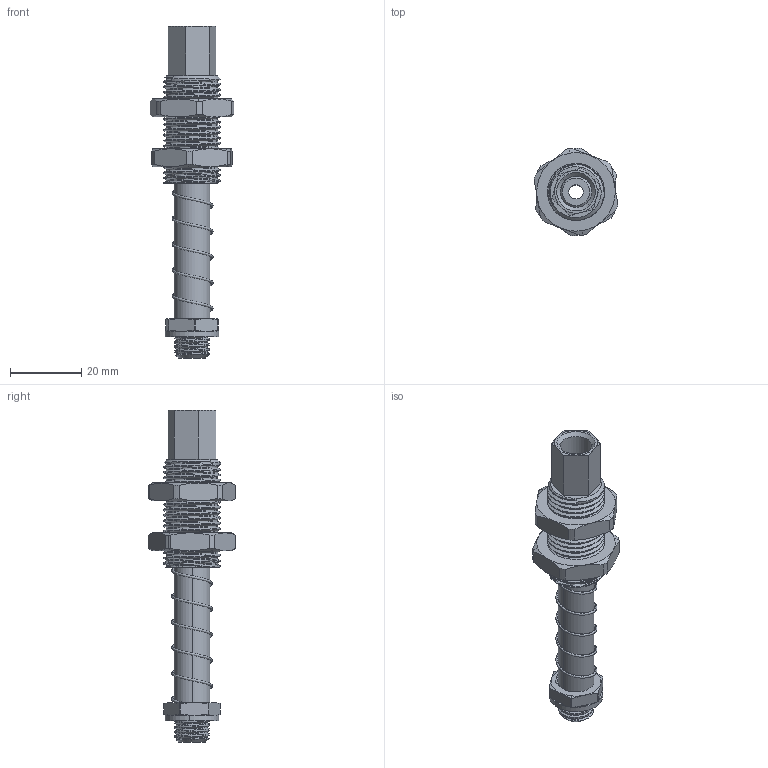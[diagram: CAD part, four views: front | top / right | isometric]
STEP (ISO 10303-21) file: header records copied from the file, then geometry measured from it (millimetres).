
FILE_DESCRIPTION (( 'STEP AP203' ), '1' );
FILE_NAME ('FSTE-G18-AG-25弹簧缓冲支杆.STEP', '2024-05-16T02:17:02', ( '微软用户' ), ( '微软中国' ), 'SwSTEP 2.0', 'SolidWorks 2018', '' );
FILE_SCHEMA (( 'CONFIG_CONTROL_DESIGN' ));
Length unit declared in the file: millimetre
Products named in the file (8): FSTE-G18-AG-25粟銅遣喳盓裝; FSTE-G18-AG-25粣裝; FSTE-G18-AG-25鞠褒情蹟譫14; FSTE-G18-AG-25踢撿芛; FSTE-G18-AG-25掛极; FSTE-G18-AG-25鞠褒情蹟譫22; FSTE-G18-AG-25菜え; FSTE-G18-AG-25粟銅
Assembly tree (8 placements, depth 2):
  FSTE-G18-AG-25粟銅遣喳盓裝
    FSTE-G18-AG-25粣裝
    FSTE-G18-AG-25鞠褒情蹟譫14
    FSTE-G18-AG-25踢撿芛
    FSTE-G18-AG-25掛极
    FSTE-G18-AG-25鞠褒情蹟譫22  x2
    FSTE-G18-AG-25菜え
    FSTE-G18-AG-25粟銅
Bounding box: 23.47 x 24.5 x 93 mm (x, y, z)
Volume: 11958.3 mm3; surface area: 11982.1 mm2
Topology: 8 solids, 8 shells, 238 faces, 589 edges, 369 vertices
Faces by surface type: cylinder 105, sphere 64, plane 46, cone 12, bspline 11
Entity records: 15948 total; most frequent: CARTESIAN_POINT 10488, ORIENTED_EDGE 1020, DIRECTION 975, EDGE_CURVE 510, AXIS2_PLACEMENT_3D 422, VERTEX_POINT 321, EDGE_LOOP 219, CIRCLE 217
